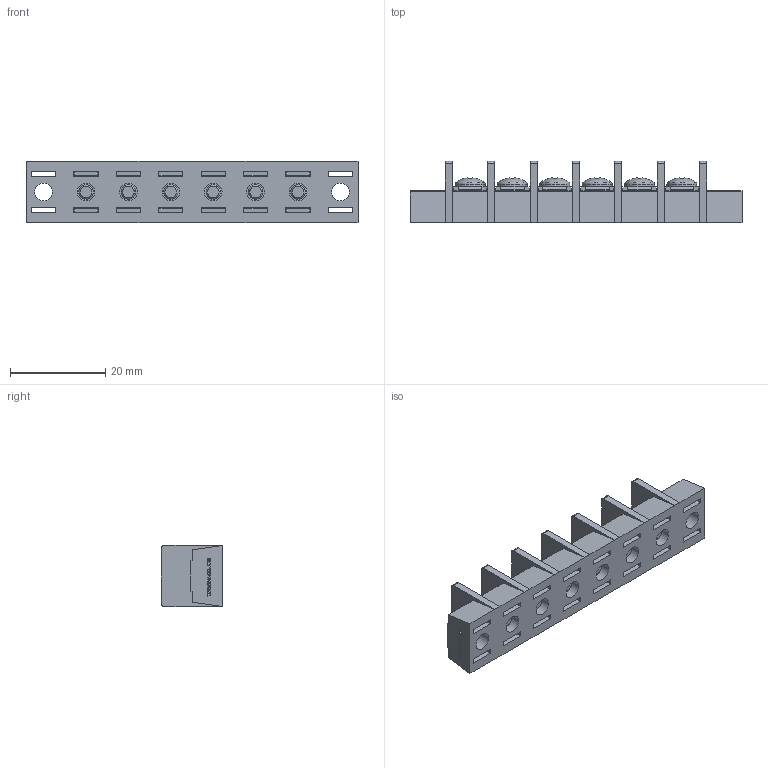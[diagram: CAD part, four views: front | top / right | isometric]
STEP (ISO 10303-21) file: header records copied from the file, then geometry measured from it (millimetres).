
FILE_DESCRIPTION(/* description */ ('Alibre Inc.'),/* implementation_level */ '2;1');
FILE_NAME(/* name */ 'export0',/* time_stamp */ '2015-10-20T20:36:23+09:00',/* author */ (''),/* organization */ (''),/* preprocessor_version */ 'ST-DEVELOPER v14',/* originating_system */ 'Alibre',/* authorisation */ '');
FILE_SCHEMA (('CONFIG_CONTROL_DESIGN'));
Length unit declared in the file: centimetre
Products named in the file (1): ID_1
Bounding box: 69.63 x 12.8 x 12.8 mm (x, y, z)
Volume: 5942.8 mm3; surface area: 7239.2 mm2
Topology: 1 solids, 103 shells, 2074 faces, 5320 edges, 3518 vertices
Faces by surface type: plane 1550, bspline 416, cylinder 60, cone 30, torus 12, sphere 6
Full cylindrical faces by diameter (mm): 3 x12, 3.7 x8, 4.6 x8, 6.3 x6
Entity records: 60163 total; most frequent: CARTESIAN_POINT 14627, ORIENTED_EDGE 10520, DIRECTION 6258, EDGE_CURVE 5260, VECTOR 4072, LINE 4072, VERTEX_POINT 3510, EDGE_LOOP 2288
